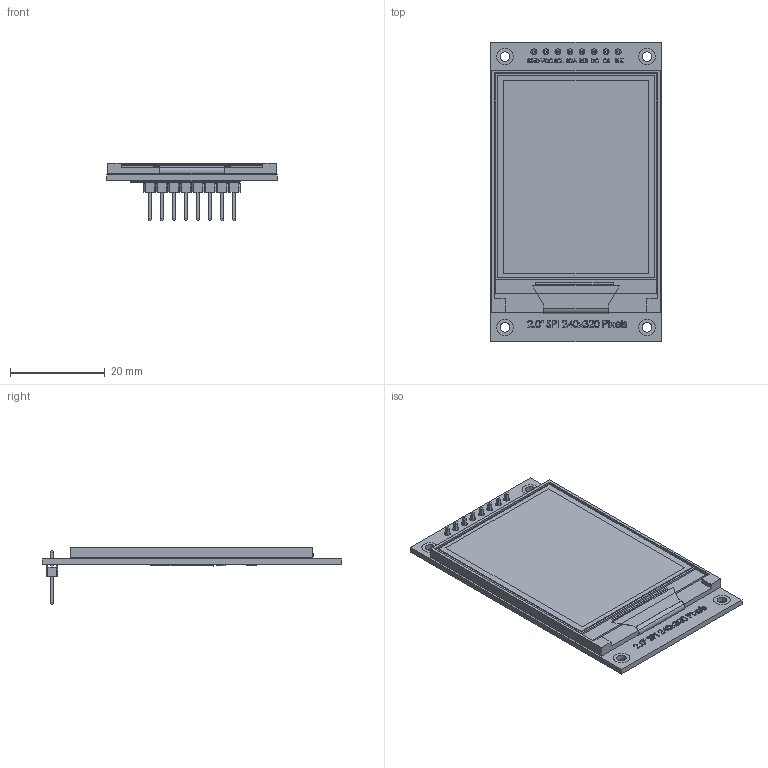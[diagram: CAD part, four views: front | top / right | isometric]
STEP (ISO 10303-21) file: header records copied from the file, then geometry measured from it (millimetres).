
FILE_DESCRIPTION (( 'STEP AP214' ), '1' );
FILE_NAME ('ER-TFTM020-2.STEP', '2025-12-17T08:14:59', ( '微软用户' ), ( '微软中国' ), 'SwSTEP 2.0', 'SolidWorks 2023', '' );
FILE_SCHEMA (( 'AUTOMOTIVE_DESIGN' ));
Length unit declared in the file: millimetre
Products named in the file (5): ER-PCBA020-2; logo_z; ER-TFTM020-2; ER-TFT020-2; Pin Header 8P
Assembly tree (4 placements, depth 2):
  ER-TFTM020-2
    ER-PCBA020-2
    ER-TFT020-2
    Pin Header 8P
    logo_z
Bounding box: 36 x 63.2 x 12.2 mm (x, y, z)
Volume: 6714.2 mm3; surface area: 10332.7 mm2
Topology: 87 solids, 87 shells, 1381 faces, 3405 edges, 2242 vertices
Faces by surface type: plane 952, bspline 401, cylinder 28
Entity records: 71025 total; most frequent: CARTESIAN_POINT 33380, ORIENTED_EDGE 6810, DIRECTION 4649, EDGE_CURVE 3405, VECTOR 2531, LINE 2531, VERTEX_POINT 2242, EDGE_LOOP 1495
